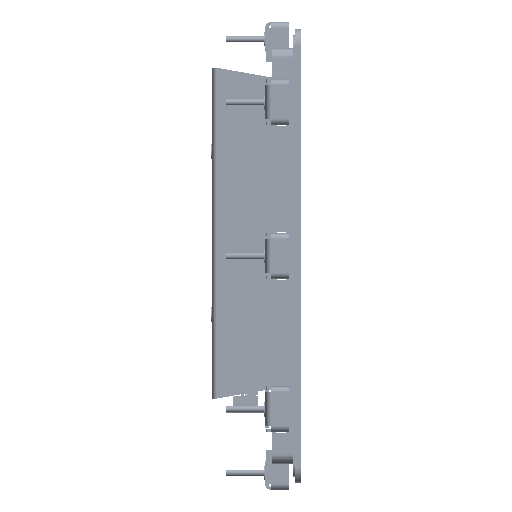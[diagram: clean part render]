
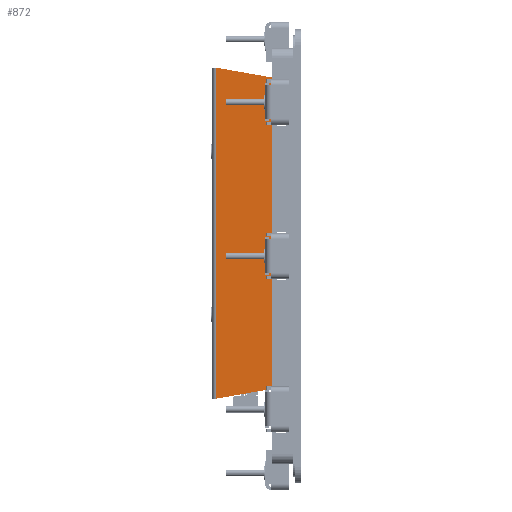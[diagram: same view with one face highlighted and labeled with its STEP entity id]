
A CAD part, front view. The second image highlights one B-rep face of the part: STEP entity #872.
In plain terms, the highlighted planar face has unit normal (0, -1, 0).
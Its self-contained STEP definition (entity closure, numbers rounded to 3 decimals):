
#872=ADVANCED_FACE('',(#96887),#96889,.T.);
#96887=FACE_BOUND('',#96888,.T.);
#96888=EDGE_LOOP('',(#175362,#175363,#175364,#175365,#175366,#175367));
#96889=PLANE('',#96890);
#96890=AXIS2_PLACEMENT_3D('',#96891,#96892,#96893);
#96891=CARTESIAN_POINT('',(-166.513,-118.3,12.));
#96892=DIRECTION('',(0.,-1.,0.));
#96893=DIRECTION('',(1.,0.,0.));
#175362=ORIENTED_EDGE('',*,*,#235385,.F.);
#175363=ORIENTED_EDGE('',*,*,#235799,.T.);
#175364=ORIENTED_EDGE('',*,*,#235800,.T.);
#175365=ORIENTED_EDGE('',*,*,#235801,.T.);
#175366=ORIENTED_EDGE('',*,*,#235389,.F.);
#175367=ORIENTED_EDGE('',*,*,#235802,.T.);
#235385=EDGE_CURVE('',#265082,#265084,#265085,.T.);
#235389=EDGE_CURVE('',#265090,#265092,#265093,.T.);
#235799=EDGE_CURVE('',#265082,#265828,#265830,.T.);
#235800=EDGE_CURVE('',#265828,#265831,#265832,.T.);
#235801=EDGE_CURVE('',#265831,#265092,#265833,.T.);
#235802=EDGE_CURVE('',#265090,#265084,#265834,.T.);
#265082=VERTEX_POINT('',#314515);
#265084=VERTEX_POINT('',#314519);
#265085=LINE('',#314520,#314521);
#265090=VERTEX_POINT('',#314531);
#265092=VERTEX_POINT('',#314535);
#265093=LINE('',#314536,#314537);
#265828=VERTEX_POINT('',#316139);
#265830=LINE('',#316143,#316144);
#265831=VERTEX_POINT('',#316146);
#265832=LINE('',#316147,#316148);
#265833=LINE('',#316150,#316151);
#265834=LINE('',#316153,#316154);
#314515=CARTESIAN_POINT('',(-14.,-118.3,107.505));
#314519=CARTESIAN_POINT('',(-14.,-118.3,97.969));
#314520=CARTESIAN_POINT('',(-14.,-118.3,107.505));
#314521=VECTOR('',#314522,1.);
#314522=DIRECTION('',(0.,0.,-1.));
#314531=CARTESIAN_POINT('',(-14.,-118.3,-73.969));
#314535=CARTESIAN_POINT('',(-14.,-118.3,-83.505));
#314536=CARTESIAN_POINT('',(-14.,-118.3,-73.969));
#314537=VECTOR('',#314538,1.);
#314538=DIRECTION('',(0.,0.,-1.));
#316139=CARTESIAN_POINT('',(-48.,-118.3,113.5));
#316143=CARTESIAN_POINT('',(-14.,-118.3,107.505));
#316144=VECTOR('',#316145,1.);
#316145=DIRECTION('',(-0.985,0.,0.174));
#316146=CARTESIAN_POINT('',(-48.,-118.3,-89.5));
#316147=CARTESIAN_POINT('',(-48.,-118.3,113.5));
#316148=VECTOR('',#316149,1.);
#316149=DIRECTION('',(0.,0.,-1.));
#316150=CARTESIAN_POINT('',(-48.,-118.3,-89.5));
#316151=VECTOR('',#316152,1.);
#316152=DIRECTION('',(0.985,0.,0.174));
#316153=CARTESIAN_POINT('',(-14.,-118.3,-73.969));
#316154=VECTOR('',#316155,1.);
#316155=DIRECTION('',(0.,0.,1.));
